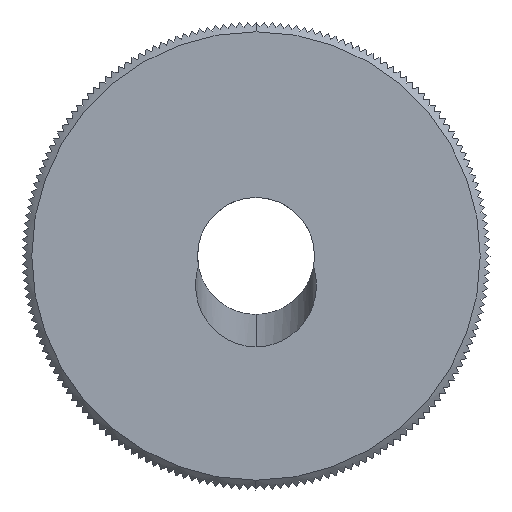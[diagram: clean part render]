
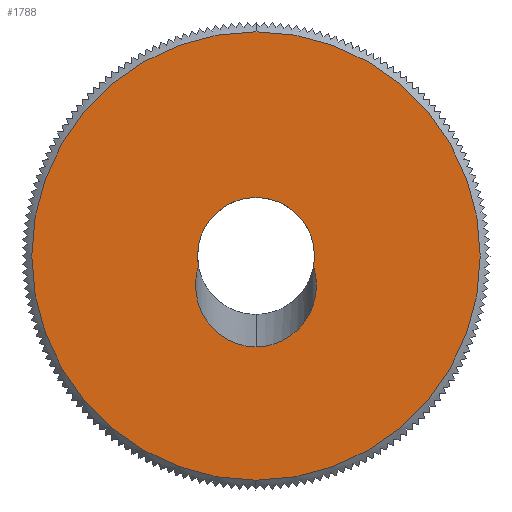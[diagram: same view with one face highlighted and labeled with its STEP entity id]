
A CAD part, left-side view. The second image highlights one B-rep face of the part: STEP entity #1788.
In plain terms, the highlighted planar face has unit normal (-1, 0, 0).
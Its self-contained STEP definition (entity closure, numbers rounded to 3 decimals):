
#1728 = EDGE_LOOP ( 'NONE', ( #1729, #1731 ) ) ;
#1729 = ORIENTED_EDGE ( 'NONE', *, *, #1730, .T. ) ;
#1730 = EDGE_CURVE ( 'NONE', #12333, #12328, #6403, .T. ) ;
#1731 = ORIENTED_EDGE ( 'NONE', *, *, #12324, .T. ) ;
#1788 = ADVANCED_FACE ( 'NONE', ( #6523, #6518 ), #6515, .F. ) ;
#1789 = EDGE_LOOP ( 'NONE', ( #1807, #1809, #1810, #1812 ) ) ;
#1807 = ORIENTED_EDGE ( 'NONE', *, *, #1808, .F. ) ;
#1808 = EDGE_CURVE ( 'NONE', #12032, #5136, #6578, .T. ) ;
#1809 = ORIENTED_EDGE ( 'NONE', *, *, #11969, .T. ) ;
#1810 = ORIENTED_EDGE ( 'NONE', *, *, #1811, .T. ) ;
#1811 = EDGE_CURVE ( 'NONE', #12798, #12042, #6574, .T. ) ;
#1812 = ORIENTED_EDGE ( 'NONE', *, *, #5126, .F. ) ;
#5126 = EDGE_CURVE ( 'NONE', #5136, #12042, #8396, .T. ) ;
#5136 = VERTEX_POINT ( 'NONE', #8390 ) ;
#6111 = DIRECTION ( 'NONE',  ( 0., 0., -1. ) ) ;
#6112 = DIRECTION ( 'NONE',  ( 1., 0., 0. ) ) ;
#6113 = CARTESIAN_POINT ( 'NONE',  ( -10., 0., 0. ) ) ;
#6399 = DIRECTION ( 'NONE',  ( 0., 0., -1. ) ) ;
#6400 = DIRECTION ( 'NONE',  ( -1., 0., 0. ) ) ;
#6401 = CARTESIAN_POINT ( 'NONE',  ( -10., 0., 0. ) ) ;
#6402 = AXIS2_PLACEMENT_3D ( 'NONE', #6401, #6400, #6399 ) ;
#6403 = CIRCLE ( 'NONE', #6402, 11.5 ) ;
#6515 = PLANE ( 'NONE',  #6517 ) ;
#6517 = AXIS2_PLACEMENT_3D ( 'NONE', #6113, #6112, #6111 ) ;
#6518 = FACE_OUTER_BOUND ( 'NONE', #1728, .T. ) ;
#6523 = FACE_BOUND ( 'NONE', #1789, .T. ) ;
#6570 = CARTESIAN_POINT ( 'NONE',  ( -10., 2.953, -0.528 ) ) ;
#6571 = CARTESIAN_POINT ( 'NONE',  ( -10., 3.652, -2.765 ) ) ;
#6572 = CARTESIAN_POINT ( 'NONE',  ( -10., 2.297, -4.661 ) ) ;
#6573 = CARTESIAN_POINT ( 'NONE',  ( -10., 0., -4.661 ) ) ;
#6574 =( BOUNDED_CURVE ( )  B_SPLINE_CURVE ( 3, ( #6573, #6572, #6571, #6570 ),
 .UNSPECIFIED., .F., .T. ) 
 B_SPLINE_CURVE_WITH_KNOTS ( ( 4, 4 ),
 ( 3.142, 5.021 ),
 .UNSPECIFIED. ) 
 CURVE ( )  GEOMETRIC_REPRESENTATION_ITEM ( )  RATIONAL_B_SPLINE_CURVE ( ( 1., 0.727, 0.727, 1. ) ) 
 REPRESENTATION_ITEM ( '' )  );
#6575 = DIRECTION ( 'NONE',  ( 0., 0., 1. ) ) ;
#6576 = DIRECTION ( 'NONE',  ( -1., 0., 0. ) ) ;
#6577 = AXIS2_PLACEMENT_3D ( 'NONE', #6583, #6576, #6575 ) ;
#6578 = CIRCLE ( 'NONE', #6577, 3. ) ;
#6583 = CARTESIAN_POINT ( 'NONE',  ( -10., 0., 0. ) ) ;
#8390 = CARTESIAN_POINT ( 'NONE',  ( -10., 0., 3. ) ) ;
#8393 = DIRECTION ( 'NONE',  ( 0., 0., 1. ) ) ;
#8394 = DIRECTION ( 'NONE',  ( -1., 0., 0. ) ) ;
#8395 = AXIS2_PLACEMENT_3D ( 'NONE', #8401, #8394, #8393 ) ;
#8396 = CIRCLE ( 'NONE', #8395, 3. ) ;
#8401 = CARTESIAN_POINT ( 'NONE',  ( -10., 0., 0. ) ) ;
#9830 =( BOUNDED_CURVE ( )  B_SPLINE_CURVE ( 3, ( #9883, #9882, #9881, #9880 ),
 .UNSPECIFIED., .F., .T. ) 
 B_SPLINE_CURVE_WITH_KNOTS ( ( 4, 4 ),
 ( 1.262, 3.142 ),
 .UNSPECIFIED. ) 
 CURVE ( )  GEOMETRIC_REPRESENTATION_ITEM ( )  RATIONAL_B_SPLINE_CURVE ( ( 1., 0.727, 0.727, 1. ) ) 
 REPRESENTATION_ITEM ( '' )  );
#9880 = CARTESIAN_POINT ( 'NONE',  ( -10., 0., -4.661 ) ) ;
#9881 = CARTESIAN_POINT ( 'NONE',  ( -10., -2.297, -4.661 ) ) ;
#9882 = CARTESIAN_POINT ( 'NONE',  ( -10., -3.652, -2.765 ) ) ;
#9883 = CARTESIAN_POINT ( 'NONE',  ( -10., -2.953, -0.528 ) ) ;
#9971 = CARTESIAN_POINT ( 'NONE',  ( -10., -2.953, -0.528 ) ) ;
#9988 = CARTESIAN_POINT ( 'NONE',  ( -10., 2.953, -0.528 ) ) ;
#10520 = DIRECTION ( 'NONE',  ( 0., 0., -1. ) ) ;
#10521 = DIRECTION ( 'NONE',  ( -1., 0., 0. ) ) ;
#10522 = CARTESIAN_POINT ( 'NONE',  ( -10., 0., 0. ) ) ;
#10523 = AXIS2_PLACEMENT_3D ( 'NONE', #10522, #10521, #10520 ) ;
#10524 = CIRCLE ( 'NONE', #10523, 11.5 ) ;
#10563 = CARTESIAN_POINT ( 'NONE',  ( -10., 0., -11.5 ) ) ;
#10566 = CARTESIAN_POINT ( 'NONE',  ( -10., 0., 11.5 ) ) ;
#11255 = CARTESIAN_POINT ( 'NONE',  ( -10., 0., -4.661 ) ) ;
#11969 = EDGE_CURVE ( 'NONE', #12032, #12798, #9830, .T. ) ;
#12032 = VERTEX_POINT ( 'NONE', #9971 ) ;
#12042 = VERTEX_POINT ( 'NONE', #9988 ) ;
#12324 = EDGE_CURVE ( 'NONE', #12328, #12333, #10524, .T. ) ;
#12328 = VERTEX_POINT ( 'NONE', #10566 ) ;
#12333 = VERTEX_POINT ( 'NONE', #10563 ) ;
#12798 = VERTEX_POINT ( 'NONE', #11255 ) ;
